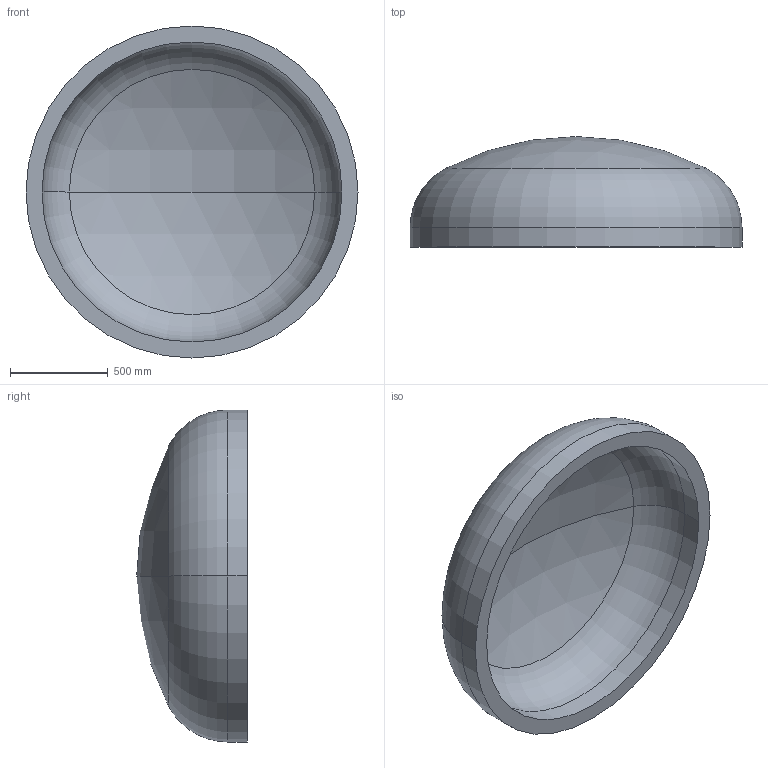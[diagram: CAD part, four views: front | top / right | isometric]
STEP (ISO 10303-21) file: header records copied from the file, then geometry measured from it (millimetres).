
FILE_DESCRIPTION (( 'STEP AP203' ), '1' );
FILE_NAME ('DIN 28013 Korbbogenform_-_Boden DIN 28013 - 1700 x 100 - I - s=82.step', '2016-07-01T12:03:44', ( '' ), ( '' ), 'SwSTEP 2.0', 'SolidWorks 2013', '' );
FILE_SCHEMA (( 'CONFIG_CONTROL_DESIGN' ));
Length unit declared in the file: millimetre
Products named in the file (1): DIN 28013 Korbbogenform_-_Boden DIN 28013 - 1700 x 100 - I - s=82
Bounding box: 1700 x 566.33 x 1700 mm (x, y, z)
Volume: 283604560 mm3; surface area: 7348079.2 mm2
Topology: 1 solids, 1 shells, 13 faces, 24 edges, 14 vertices
Faces by surface type: torus 4, cylinder 4, sphere 4, plane 1
Entity records: 407 total; most frequent: DIRECTION 72, CARTESIAN_POINT 52, ORIENTED_EDGE 48, AXIS2_PLACEMENT_3D 34, EDGE_CURVE 24, CIRCLE 20, EDGE_LOOP 14, VERTEX_POINT 14
